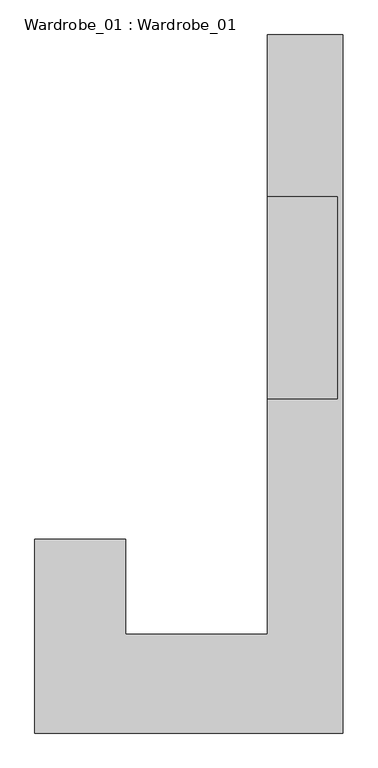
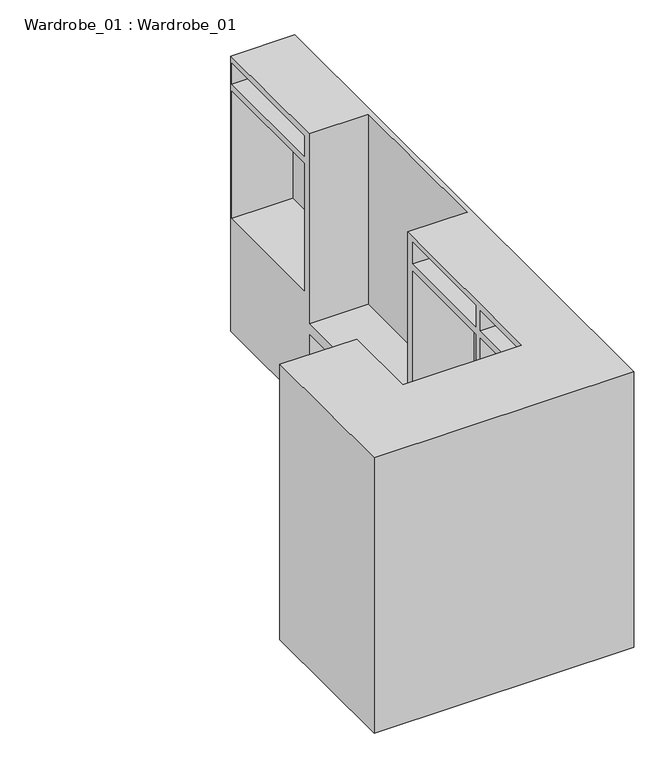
"""IFC4 building model written with IfcOpenShell, lengths in millimetres: furniture geometry, Wardrobe_01 : Wardrobe_01."""

from ifc_helpers import new_model, si_unit, origin, place, context, project, spatial, faceted_brep, source, transform, mapped, element, save


def wardrobe_01_wardrobe_01_081bacbf(model_context):
    return source(origin(), model_context, "Body", "Brep", [
        faceted_brep([(-4628.0019919, 157.224799, 8900.0), (-4628.0019919, -1181.1735117, 8900.0), (-2495.5019919, -1181.1735117, 8900.0), (-2495.5019919, 3643.8264883, 8900.0), (-3019.315853, 3643.8264883, 8900.0), (-3019.315853, 2529.61528, 8900.0), (-2532.2455112, 2529.61528, 8900.0), (-2532.2455112, 1124.61528, 8900.0), (-3019.315853, 1124.61528, 8900.0), (-3019.315853, -497.4489286, 8900.0), (-3999.315853, -497.4489286, 8900.0), (-3999.315853, 157.224799, 8900.0), (-4628.0019919, 157.224799, 6510.0), (-3999.315853, 157.224799, 6510.0), (-3999.315853, -497.4489286, 6510.0), (-3019.315853, -497.4489286, 6510.0), (-3019.315853, 1124.61528, 6510.0), (-2495.5019919, 1124.61528, 6510.0), (-2495.5019919, -1181.1735117, 6510.0), (-4628.0019919, -1181.1735117, 6510.0), (-3019.315853, 3643.8264883, 6510.0), (-2495.5019919, 3643.8264883, 6510.0), (-2495.5019919, 2529.61528, 6510.0), (-3019.315853, 2529.61528, 6510.0), (-2495.5019919, 1124.61528, 7164.4434542), (-2495.5019919, 2529.61528, 7164.4434542), (-2495.5019919, -824.4801931, 8600.5583378), (-2495.5019919, 95.5198069, 8600.5583378), (-2495.5019919, 95.5198069, 6562.0419313), (-2495.5019919, -824.4801931, 6562.0419313), (-2495.5019919, -824.4801931, 8841.2035824), (-2495.5019919, 95.5198069, 8841.2035824), (-2495.5019919, 95.5198069, 8664.1540412), (-2495.5019919, -824.4801931, 8664.1540412), (-2495.5019919, 2596.6121418, 8843.925203), (-2495.5019919, 3629.61528, 8843.925203), (-2495.5019919, 3629.61528, 8665.3722935), (-2495.5019919, 2596.6121418, 8665.3722935), (-3019.315853, 2529.61528, 7164.4434542), (-3019.315853, 1124.61528, 7164.4434542), (-3019.315853, -497.4489286, 6565.5711229), (-3019.315853, -814.4801931, 6565.5711229), (-3019.315853, -814.4801931, 6903.1838303), (-3019.315853, -497.4489286, 6903.1838303), (-3019.315853, -497.4489286, 6974.915969), (-3019.315853, -814.4801931, 6974.915969), (-3019.315853, -814.4801931, 7284.0904893), (-3019.315853, -497.4489286, 7284.0904893), (-3019.315853, -497.4489286, 7342.8336482), (-3019.315853, -814.4801931, 7342.8336482), (-3019.315853, -814.4801931, 7682.9256205), (-3019.315853, -497.4489286, 7682.9256205), (-3019.315853, -497.4489286, 7711.8748155), (-3019.315853, -814.4801931, 7711.8748155), (-3019.315853, -814.4801931, 8065.4229651), (-3019.315853, -497.4489286, 8065.4229651), (-3019.315853, -497.4489286, 8116.6816317), (-3019.315853, -814.4801931, 8116.6816317), (-3019.315853, -814.4801931, 8433.1026801), (-3019.315853, -497.4489286, 8433.1026801), (-3019.315853, -497.4489286, 8485.0287422), (-3019.315853, -814.4801931, 8485.0287422), (-3019.315853, -814.4801931, 8844.8433598), (-3019.315853, -497.4489286, 8844.8433598), (-3019.315853, 1124.61528, 7250.0637969), (-3019.315853, 2529.61528, 7250.0637969), (-3019.315853, 95.5198069, 8600.5583378), (-3019.315853, -484.4801931, 8600.5583378), (-3019.315853, -484.4801931, 6562.0419313), (-3019.315853, 95.5198069, 6562.0419313), (-3019.315853, 95.5198069, 8841.2035824), (-3019.315853, -484.4801931, 8841.2035824), (-3019.315853, -484.4801931, 8664.1540412), (-3019.315853, 95.5198069, 8664.1540412), (-3019.315853, 1055.6126323, 6926.9527866), (-3019.315853, 155.6126323, 6926.9527866), (-3019.315853, 155.6126323, 6560.5051788), (-3019.315853, 1055.6126323, 6560.5051788), (-3019.315853, 1055.6126323, 7164.4093268), (-3019.315853, 155.6126323, 7164.4093268), (-3019.315853, 155.6126323, 6980.761987), (-3019.315853, 1055.6126323, 6980.761987), (-3019.315853, 1055.6126323, 7546.2791923), (-3019.315853, 155.6126323, 7546.2791923), (-3019.315853, 155.6126323, 7231.4551811), (-3019.315853, 1055.6126323, 7231.4551811), (-3019.315853, 1055.6126323, 8601.2509765), (-3019.315853, 155.6126323, 8601.2509765), (-3019.315853, 155.6126323, 7592.3367791), (-3019.315853, 1055.6126323, 7592.3367791), (-3019.315853, 1055.6126323, 8850.5839515), (-3019.315853, 155.6126323, 8850.5839515), (-3019.315853, 155.6126323, 8664.1540412), (-3019.315853, 1055.6126323, 8664.1540412), (-3019.315853, 3629.61528, 8604.4763467), (-3019.315853, 2596.6121418, 8604.4763467), (-3019.315853, 2596.6121418, 7498.680428), (-3019.315853, 3629.61528, 7498.680428), (-3019.315853, 3629.61528, 8843.925203), (-3019.315853, 2596.6121418, 8843.925203), (-3019.315853, 2596.6121418, 8665.3722935), (-3019.315853, 3629.61528, 8665.3722935), (-3999.315853, -497.4489286, 8844.8433598), (-3999.315853, -497.4489286, 6562.0419313), (-4074.6800724, -497.4489286, 6562.0419313), (-4074.6800724, -497.4489286, 8600.5583378), (-3999.315853, -497.4489286, 8600.5583378), (-3999.315853, -497.4489286, 8485.0287422), (-3999.315853, -497.4489286, 8433.1026801), (-3999.315853, -497.4489286, 8116.6816317), (-3999.315853, -497.4489286, 8065.4229651), (-3999.315853, -497.4489286, 7711.8748155), (-3999.315853, -497.4489286, 7682.9256205), (-3999.315853, -497.4489286, 7342.8336482), (-3999.315853, -497.4489286, 7284.0904893), (-3999.315853, -497.4489286, 6974.915969), (-3999.315853, -497.4489286, 6903.1838303), (-3999.315853, -497.4489286, 6565.5711229), (-4074.6800724, -497.4489286, 8667.7224346), (-4074.6800724, -497.4489286, 8841.2035824), (-3999.315853, -497.4489286, 8841.2035824), (-3999.315853, -497.4489286, 8667.7224346), (-3999.315853, -814.4801931, 8844.8433598), (-3999.315853, -814.4801931, 8485.0287422), (-3999.315853, 70.4832896, 8600.5583378), (-3999.315853, 70.4832896, 6562.0419313), (-3999.315853, 70.4832896, 8841.2035824), (-3999.315853, 70.4832896, 8667.7224346), (-4074.6800724, -669.5167104, 8600.5583378), (-4559.315853, -669.5167104, 8600.5583378), (-4559.315853, 70.4832896, 8600.5583378), (-4559.315853, 70.4832896, 6562.0419313), (-4559.315853, -669.5167104, 6562.0419313), (-4074.6800724, -669.5167104, 6562.0419313), (-4074.6800724, -669.5167104, 8841.2035824), (-4559.315853, -669.5167104, 8841.2035824), (-4559.315853, 70.4832896, 8841.2035824), (-4559.315853, 70.4832896, 8667.7224346), (-4559.315853, -669.5167104, 8667.7224346), (-4074.6800724, -669.5167104, 8667.7224346), (-3999.315853, -814.4801931, 6903.1838303), (-3999.315853, -814.4801931, 6565.5711229), (-3999.315853, -814.4801931, 7284.0904893), (-3999.315853, -814.4801931, 6974.915969), (-3999.315853, -814.4801931, 7682.9256205), (-3999.315853, -814.4801931, 7342.8336482), (-3999.315853, -814.4801931, 8065.4229651), (-3999.315853, -814.4801931, 7711.8748155), (-3999.315853, -814.4801931, 8433.1026801), (-3999.315853, -814.4801931, 8116.6816317), (-2959.315853, -824.4801931, 8600.5583378), (-2959.315853, -484.4801931, 8600.5583378), (-2959.315853, -484.4801931, 6562.0419313), (-2959.315853, -824.4801931, 6562.0419313), (-2959.315853, -824.4801931, 8841.2035824), (-2959.315853, -484.4801931, 8841.2035824), (-2959.315853, -484.4801931, 8664.1540412), (-2959.315853, -824.4801931, 8664.1540412), (-2503.2892761, 1055.6126323, 6926.9527866), (-2503.2892761, 155.6126323, 6926.9527866), (-2503.2892761, 155.6126323, 6560.5051788), (-2503.2892761, 1055.6126323, 6560.5051788), (-2503.2892761, 1055.6126323, 7164.4093268), (-2503.2892761, 155.6126323, 7164.4093268), (-2503.2892761, 155.6126323, 6980.761987), (-2503.2892761, 1055.6126323, 6980.761987), (-2503.2892761, 1055.6126323, 7546.2791923), (-2503.2892761, 155.6126323, 7546.2791923), (-2503.2892761, 155.6126323, 7231.4551811), (-2503.2892761, 1055.6126323, 7231.4551811), (-2516.0102314, 1055.6126323, 8601.2509765), (-2516.0102314, 155.6126323, 8601.2509765), (-2516.0102314, 155.6126323, 7592.3367791), (-2516.0102314, 1055.6126323, 7592.3367791), (-2503.2892761, 1055.6126323, 8850.5839515), (-2503.2892761, 155.6126323, 8850.5839515), (-2503.2892761, 155.6126323, 8664.1540412), (-2503.2892761, 1055.6126323, 8664.1540412), (-2532.2455112, 1124.61528, 7250.0637969), (-2532.2455112, 2529.61528, 7250.0637969), (-2518.4554091, 3629.61528, 8604.4763467), (-2518.4554091, 2596.6121418, 8604.4763467), (-2518.4554091, 2596.6121418, 7498.680428), (-2518.4554091, 3629.61528, 7498.680428)], [[[0, 1, 2, 3, 4, 5, 6, 7, 8, 9, 10, 11]], [[12, 13, 14, 15, 16, 17, 18, 19]], [[20, 21, 22, 23]], [[1, 0, 12, 19]], [[2, 1, 19, 18]], [[3, 2, 18, 17, 24, 25, 22, 21], [26, 27, 28, 29], [30, 31, 32, 33], [34, 35, 36, 37]], [[4, 3, 21, 20]], [[4, 20, 23, 38, 39, 16, 15, 40, 41, 42, 43, 44, 45, 46, 47, 48, 49, 50, 51, 52, 53, 54, 55, 56, 57, 58, 59, 60, 61, 62, 63, 9, 8, 64, 65, 5], [66, 67, 68, 69], [70, 71, 72, 73], [74, 75, 76, 77], [78, 79, 80, 81], [82, 83, 84, 85], [86, 87, 88, 89], [90, 91, 92, 93], [94, 95, 96, 97], [98, 99, 100, 101]], [[10, 9, 63, 102]], [[15, 14, 103, 104, 105, 106, 107, 60, 59, 108, 109, 56, 55, 110, 111, 52, 51, 112, 113, 48, 47, 114, 115, 44, 43, 116, 117, 40]], [[118, 119, 120, 121]], [[11, 10, 102, 122, 123, 107, 106, 124, 125, 103, 14, 13], [126, 127, 121, 120]], [[0, 11, 13, 12]], [[105, 128, 129, 130, 124, 106]], [[131, 132, 133, 104, 103, 125]], [[130, 131, 125, 124]], [[130, 129, 132, 131]], [[129, 128, 133, 132]], [[128, 105, 104, 133]], [[119, 134, 135, 136, 126, 120]], [[137, 138, 139, 118, 121, 127]], [[136, 137, 127, 126]], [[136, 135, 138, 137]], [[135, 134, 139, 138]], [[134, 119, 118, 139]], [[42, 140, 116, 43]], [[141, 41, 40, 117]], [[140, 141, 117, 116]], [[140, 42, 41, 141]], [[46, 142, 114, 47]], [[143, 45, 44, 115]], [[142, 143, 115, 114]], [[142, 46, 45, 143]], [[50, 144, 112, 51]], [[145, 49, 48, 113]], [[144, 145, 113, 112]], [[144, 50, 49, 145]], [[54, 146, 110, 55]], [[147, 53, 52, 111]], [[146, 147, 111, 110]], [[146, 54, 53, 147]], [[58, 148, 108, 59]], [[149, 57, 56, 109]], [[148, 149, 109, 108]], [[148, 58, 57, 149]], [[62, 122, 102, 63]], [[123, 61, 60, 107]], [[122, 62, 61, 123]], [[150, 151, 67, 66, 27, 26]], [[152, 153, 29, 28, 69, 68]], [[27, 66, 69, 28]], [[151, 152, 68, 67]], [[151, 150, 153, 152]], [[153, 150, 26, 29]], [[154, 155, 71, 70, 31, 30]], [[156, 157, 33, 32, 73, 72]], [[31, 70, 73, 32]], [[155, 156, 72, 71]], [[155, 154, 157, 156]], [[157, 154, 30, 33]], [[158, 159, 75, 74]], [[160, 161, 77, 76]], [[161, 158, 74, 77]], [[159, 160, 76, 75]], [[159, 158, 161, 160]], [[162, 163, 79, 78]], [[164, 165, 81, 80]], [[165, 162, 78, 81]], [[163, 164, 80, 79]], [[163, 162, 165, 164]], [[166, 167, 83, 82]], [[168, 169, 85, 84]], [[169, 166, 82, 85]], [[167, 168, 84, 83]], [[167, 166, 169, 168]], [[170, 171, 87, 86]], [[172, 173, 89, 88]], [[173, 170, 86, 89]], [[171, 172, 88, 87]], [[171, 170, 173, 172]], [[174, 175, 91, 90]], [[176, 177, 93, 92]], [[177, 174, 90, 93]], [[175, 176, 92, 91]], [[175, 174, 177, 176]], [[24, 39, 38, 25]], [[25, 38, 23, 22]], [[39, 24, 17, 16]], [[178, 179, 65, 64]], [[65, 179, 6, 5]], [[178, 64, 8, 7]], [[179, 178, 7, 6]], [[180, 181, 95, 94]], [[182, 183, 97, 96]], [[183, 180, 94, 97]], [[181, 182, 96, 95]], [[181, 180, 183, 182]], [[34, 99, 98, 35]], [[36, 101, 100, 37]], [[35, 98, 101, 36]], [[99, 34, 37, 100]]]),
    ])


if __name__ == "__main__":
    model = new_model("IFC4")
    model_context = context("Model", 3, world=origin())
    ifc_project = project(units=[si_unit("LENGTHUNIT", "METRE", prefix="MILLI")], contexts=[model_context])
    site = spatial("IfcSite", under=ifc_project)
    building = spatial("IfcBuilding", under=site)
    placement = place(None, origin())
    wardrobe_01_wardrobe_01_shape = wardrobe_01_wardrobe_01_081bacbf(model_context)
    element("IfcFurniture", 1, ObjectType="Wardrobe_01 : Wardrobe_01", at=placement, inside=building, context=model_context, shape_type="MappedRepresentation", body=[
        mapped(wardrobe_01_wardrobe_01_shape, transform((0.0, 0.0, 0.0), x_axis=(1.0, 0.0, 0.0), y_axis=(0.0, 1.0, 0.0), z_axis=(0.0, 0.0, 1.0))),
    ])
    save(model, "model.ifc")
